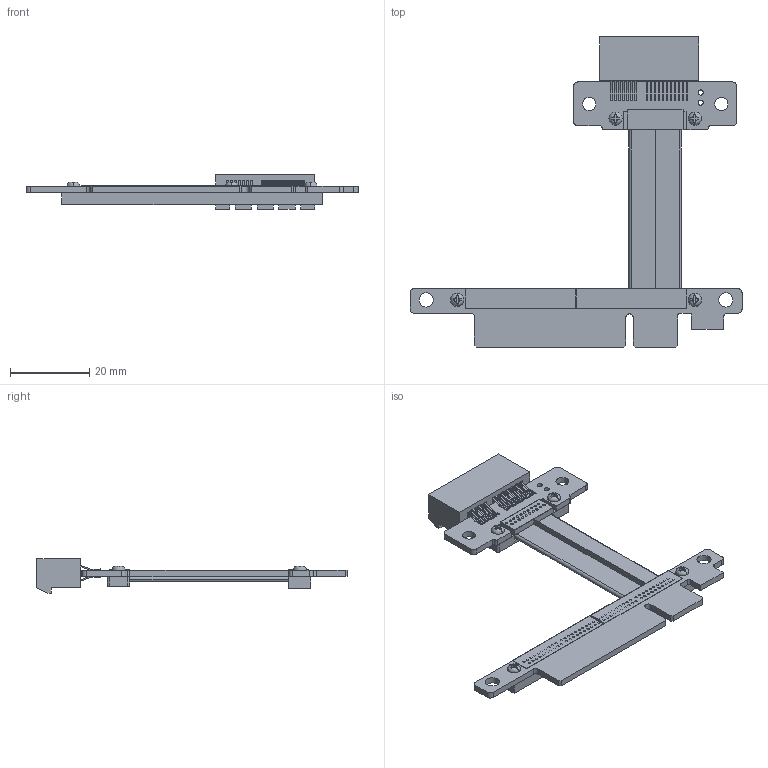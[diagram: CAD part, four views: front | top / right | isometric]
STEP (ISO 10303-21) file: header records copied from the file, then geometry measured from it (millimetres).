
FILE_DESCRIPTION(('Open CASCADE Model'),'2;1');
FILE_NAME('Open CASCADE Shape Model','2020-03-21T03:15:54',('Author'),( 'Open CASCADE'),'Open CASCADE STEP processor 6.8','Open CASCADE 6.8' ,'Unknown');
FILE_SCHEMA(('AUTOMOTIVE_DESIGN { 1 0 10303 214 1 1 1 1 }'));
Length unit declared in the file: millimetre
Products named in the file (14): PCB; Board; Open CASCADE STEP translator 6.8 27.1.1; Free-Models; Tape28x5_RGB0; G0033_RGB9411503; Hexagon_nut_ISO_4032_(DIN_934)_-_M2_RGB9411503; R8S-PAD-20170526; PCIe_x1_SF_RGB4404530; _PCIE-036-02-S-D-EMS2_body; _PCIE-036-02-S-D-EMS2_pins1; RP11S-PAD; Tape14x5_RGB0; cable20-43
Assembly tree (20 placements, depth 4):
  PCB
    Board
      Open CASCADE STEP translator 6.8 27.1.1
    Free-Models
      Tape28x5_RGB0  x2
      G0033_RGB9411503  x4
      Hexagon_nut_ISO_4032_(DIN_934)_-_M2_RGB9411503  x4
      R8S-PAD-20170526
      PCIe_x1_SF_RGB4404530
        _PCIE-036-02-S-D-EMS2_body
        _PCIE-036-02-S-D-EMS2_pins1
      RP11S-PAD
      Tape14x5_RGB0
      cable20-43
Bounding box: 83.63 x 78.2 x 8.7 mm (x, y, z)
Volume: 5336.8 mm3; surface area: 13102 mm2
Topology: 57 solids, 57 shells, 2291 faces, 6540 edges, 4302 vertices
Faces by surface type: plane 1345, cylinder 810, torus 80, cone 48, revolution 8
Full cylindrical faces by diameter (mm): 0.6 x100, 1.3 x2, 2.2 x8, 3.3 x2, 3.6 x2, 4 x2, 4.8 x2
Entity records: 86832 total; most frequent: CARTESIAN_POINT 12635, ORIENTED_EDGE 12408, DIRECTION 12236, EDGE_CURVE 6204, LINE 4420, VECTOR 4420, VERTEX_POINT 4090, AXIS2_PLACEMENT_3D 3907
